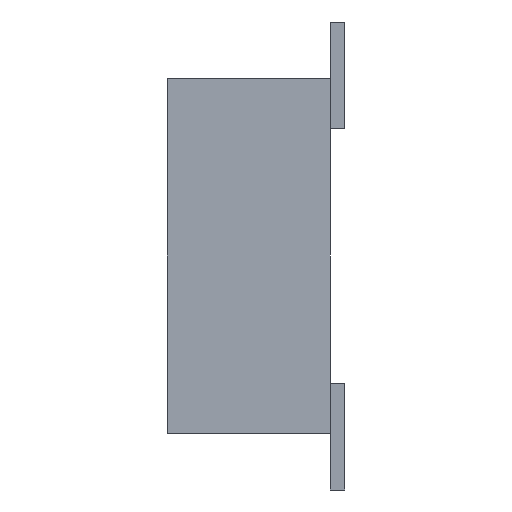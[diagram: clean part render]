
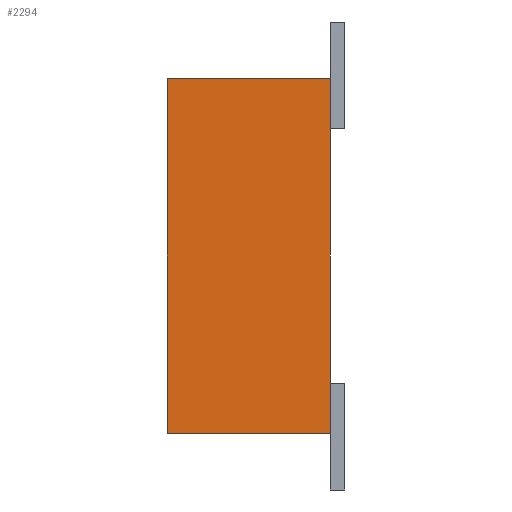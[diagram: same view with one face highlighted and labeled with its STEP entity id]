
A CAD part, left-side view. The second image highlights one B-rep face of the part: STEP entity #2294.
In plain terms, the highlighted planar face has unit normal (-1, 0, 0).
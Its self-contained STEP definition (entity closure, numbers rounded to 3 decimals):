
#154=DIRECTION('',(0.,0.,1.));
#155=VECTOR('',#154,2.5);
#156=CARTESIAN_POINT('',(-4.,0.,-1.25));
#157=LINE('',#156,#155);
#414=DIRECTION('',(0.,1.,0.));
#415=VECTOR('',#414,1.15);
#416=CARTESIAN_POINT('',(-4.,0.,1.25));
#417=LINE('',#416,#415);
#558=DIRECTION('',(0.,0.,1.));
#559=VECTOR('',#558,2.5);
#560=CARTESIAN_POINT('',(-4.,1.15,-1.25));
#561=LINE('',#560,#559);
#570=DIRECTION('',(0.,1.,0.));
#571=VECTOR('',#570,1.15);
#572=CARTESIAN_POINT('',(-4.,0.,-1.25));
#573=LINE('',#572,#571);
#1334=CARTESIAN_POINT('',(-4.,0.,-1.25));
#1335=CARTESIAN_POINT('',(-4.,0.,1.25));
#1336=VERTEX_POINT('',#1334);
#1337=VERTEX_POINT('',#1335);
#1338=CARTESIAN_POINT('',(-4.,1.15,1.25));
#1340=VERTEX_POINT('',#1338);
#1344=CARTESIAN_POINT('',(-4.,1.15,-1.25));
#1345=VERTEX_POINT('',#1344);
#2283=CARTESIAN_POINT('',(-4.,0.,-1.25));
#2284=DIRECTION('',(-1.,0.,0.));
#2285=DIRECTION('',(0.,0.,1.));
#2286=AXIS2_PLACEMENT_3D('',#2283,#2284,#2285);
#2287=PLANE('',#2286);
#2288=ORIENTED_EDGE('',*,*,#1827,.F.);
#2289=ORIENTED_EDGE('',*,*,#2225,.T.);
#2290=ORIENTED_EDGE('',*,*,#2276,.T.);
#2291=ORIENTED_EDGE('',*,*,#2033,.F.);
#2292=EDGE_LOOP('',(#2288,#2289,#2290,#2291));
#2293=FACE_OUTER_BOUND('',#2292,.F.);
#2294=ADVANCED_FACE('',(#2293),#2287,.T.);
#1827=EDGE_CURVE('',#1336,#1337,#157,.T.);
#2033=EDGE_CURVE('',#1337,#1340,#417,.T.);
#2225=EDGE_CURVE('',#1336,#1345,#573,.T.);
#2276=EDGE_CURVE('',#1345,#1340,#561,.T.);
